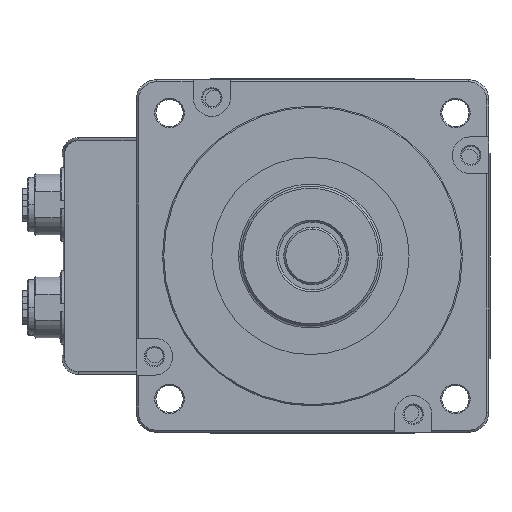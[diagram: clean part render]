
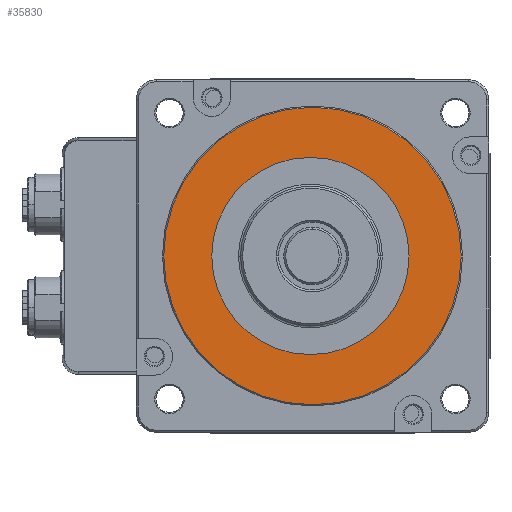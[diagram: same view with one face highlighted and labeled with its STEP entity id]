
A CAD part, left-side view. The second image highlights one B-rep face of the part: STEP entity #35830.
In plain terms, the highlighted planar face has unit normal (-1, 0, 0) as drawn and (0, -1, 0) by its records, which use the part's own axes.
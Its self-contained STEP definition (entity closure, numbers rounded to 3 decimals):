
#33084=CARTESIAN_POINT('',(46.966,-2.,63.564));
#33085=DIRECTION('',(0.,1.,0.));
#33086=DIRECTION('',(1.,0.,0.));
#33087=AXIS2_PLACEMENT_3D('',#33084,#33085,#33086);
#33092=CARTESIAN_POINT('',(46.966,-2.,63.564));
#33093=DIRECTION('',(0.,1.,0.));
#33094=DIRECTION('',(0.,0.,1.));
#33095=AXIS2_PLACEMENT_3D('',#33092,#33093,#33094);
#33100=CARTESIAN_POINT('',(46.966,-2.,63.564));
#33101=DIRECTION('',(0.,1.,0.));
#33102=DIRECTION('',(-1.,0.,0.));
#33103=AXIS2_PLACEMENT_3D('',#33100,#33101,#33102);
#33108=CARTESIAN_POINT('',(46.966,-2.,63.564));
#33109=DIRECTION('',(0.,1.,0.));
#33110=DIRECTION('',(0.,0.,-1.));
#33111=AXIS2_PLACEMENT_3D('',#33108,#33109,#33110);
#33116=CARTESIAN_POINT('',(46.966,-2.,64.064));
#33117=DIRECTION('',(0.,-1.,0.));
#33118=DIRECTION('',(0.,0.,1.));
#33119=AXIS2_PLACEMENT_3D('',#33116,#33117,#33118);
#33124=CARTESIAN_POINT('',(46.966,-2.,64.064));
#33125=DIRECTION('',(0.,-1.,0.));
#33126=DIRECTION('',(0.,0.,-1.));
#33127=AXIS2_PLACEMENT_3D('',#33124,#33125,#33126);
#35211=CARTESIAN_POINT('',(46.966,-2.,87.564));
#35213=VERTEX_POINT('',#35211);
#35215=CARTESIAN_POINT('',(46.966,-2.,39.564));
#35217=VERTEX_POINT('',#35215);
#35219=CARTESIAN_POINT('',(22.966,-2.,63.564));
#35220=VERTEX_POINT('',#35219);
#35221=CARTESIAN_POINT('',(70.966,-2.,63.564));
#35222=VERTEX_POINT('',#35221);
#35305=CARTESIAN_POINT('',(46.966,-2.,100.264));
#35306=CARTESIAN_POINT('',(46.966,-2.,27.864));
#35307=VERTEX_POINT('',#35305);
#35308=VERTEX_POINT('',#35306);
#35810=CARTESIAN_POINT('',(46.966,-2.,64.064));
#35811=DIRECTION('',(0.,1.,0.));
#35812=DIRECTION('',(0.,0.,1.));
#35813=AXIS2_PLACEMENT_3D('',#35810,#35811,#35812);
#35814=PLANE('',#35813);
#35815=ORIENTED_EDGE('',*,*,#35788,.F.);
#35817=ORIENTED_EDGE('',*,*,#35816,.F.);
#35818=EDGE_LOOP('',(#35815,#35817));
#35819=FACE_OUTER_BOUND('',#35818,.F.);
#35821=ORIENTED_EDGE('',*,*,#35820,.F.);
#35823=ORIENTED_EDGE('',*,*,#35822,.F.);
#35825=ORIENTED_EDGE('',*,*,#35824,.F.);
#35827=ORIENTED_EDGE('',*,*,#35826,.F.);
#35828=EDGE_LOOP('',(#35821,#35823,#35825,#35827));
#35829=FACE_BOUND('',#35828,.F.);
#33088=CIRCLE('',#33087,24.);
#33096=CIRCLE('',#33095,24.);
#33104=CIRCLE('',#33103,24.);
#33112=CIRCLE('',#33111,24.);
#33120=CIRCLE('',#33119,36.2);
#33128=CIRCLE('',#33127,36.2);
#35788=EDGE_CURVE('',#35307,#35308,#33120,.T.);
#35816=EDGE_CURVE('',#35308,#35307,#33128,.T.);
#35820=EDGE_CURVE('',#35222,#35217,#33088,.T.);
#35822=EDGE_CURVE('',#35213,#35222,#33096,.T.);
#35824=EDGE_CURVE('',#35220,#35213,#33104,.T.);
#35826=EDGE_CURVE('',#35217,#35220,#33112,.T.);
#35830=ADVANCED_FACE('',(#35819,#35829),#35814,.F.);
